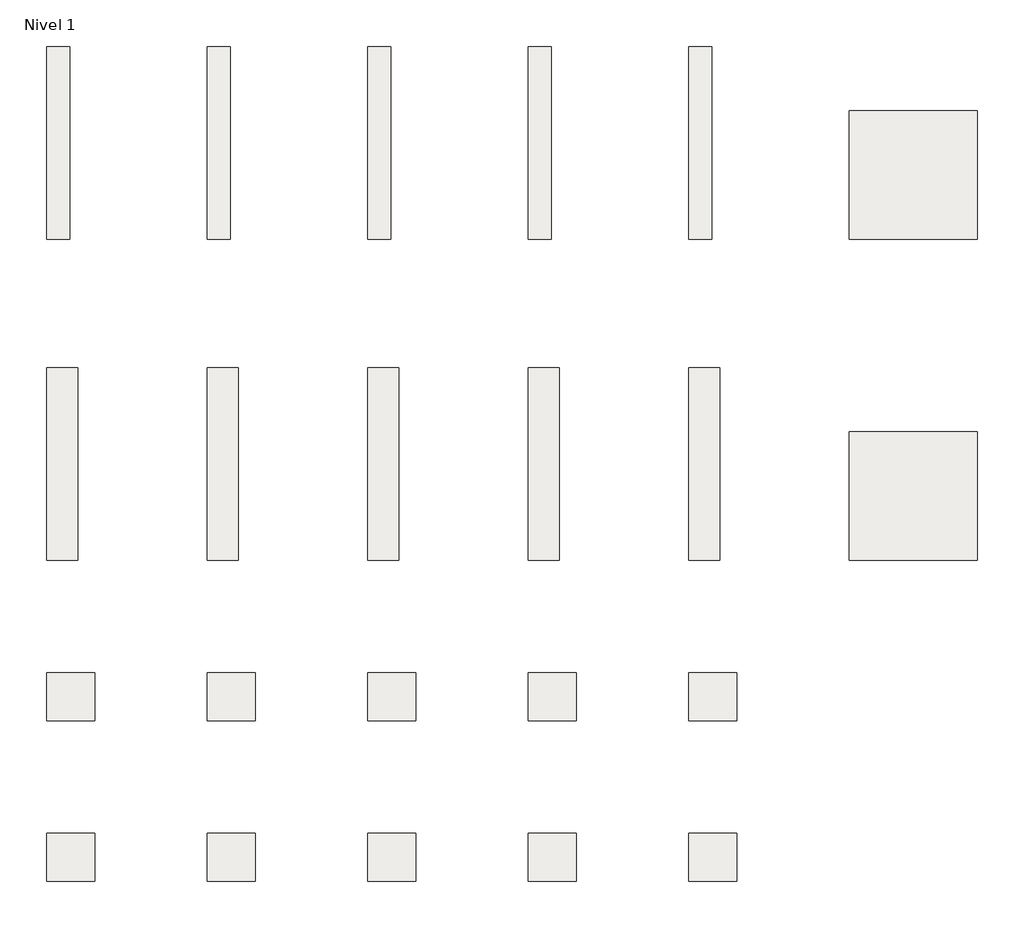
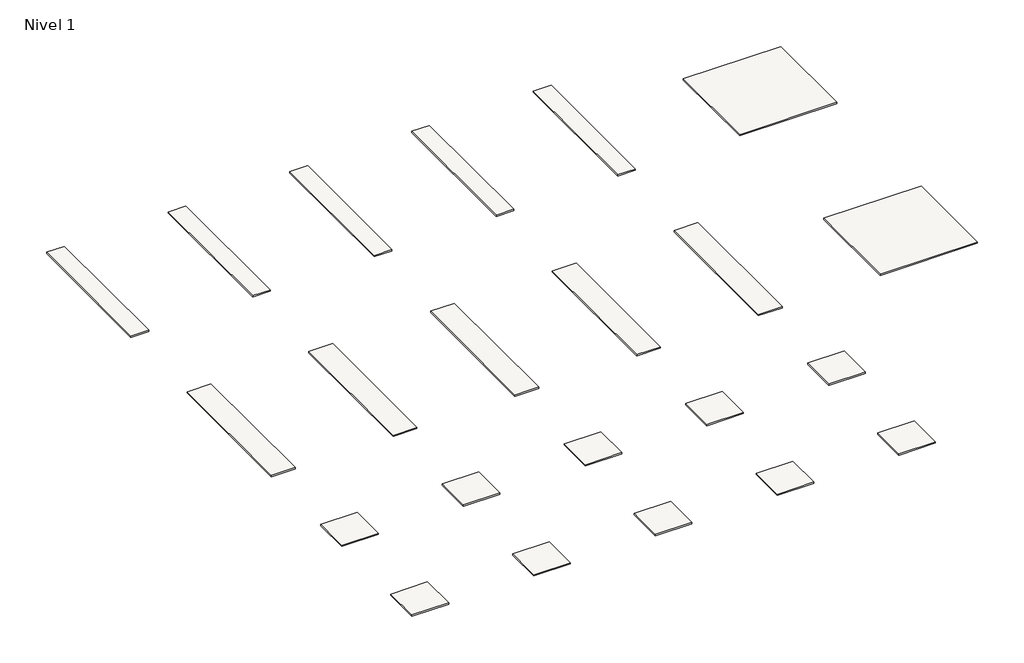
# One storey: 22 slabs.
"""IFC4 building model written with IfcOpenShell, lengths in millimetres."""

from ifc_helpers import new_model, si_unit, frame, origin, place, context, project, spatial, polyline, outline, extrude, element, save

model = new_model("IFC4")

# Units and contexts
model_context = context("Model", 3, world=origin())
ifc_project = project(units=[si_unit("LENGTHUNIT", "METRE", prefix="MILLI")], contexts=[model_context])

# Site, building, storey
site = spatial("IfcSite", under=ifc_project)
building = spatial("IfcBuilding", under=site)
storey = spatial("IfcBuildingStorey", under=building, Name="Nivel 1", Elevation=0.0)

# Slabs
placement = place(None, origin())
element("IfcSlab", 1, ObjectType="Sajonia Cerezo 14,5X120 Rec.", at=placement, inside=storey, context=model_context, shape_type="SweptSolid", body=[
    extrude(outline(polyline([(0.0, 1200.0), (145.0, 1200.0), (145.0, 0.0), (0.0, 0.0), (0.0, 1200.0)])), frame((0.0, 0.0, -11.3), z_axis=(0.0, 0.0, 1.0), x_axis=(1.0, 0.0, 0.0)), (0.0, 0.0, 1.0), 11.3),
])
element("IfcSlab", 2, ObjectType="Sajonia Arce 14,5X120 Rec.", at=placement, inside=storey, context=model_context, shape_type="SweptSolid", body=[
    extrude(outline(polyline([(1000.0, 1200.0), (1145.0, 1200.0), (1145.0, 0.0), (1000.0, 0.0), (1000.0, 1200.0)])), frame((0.0, 0.0, -11.3), z_axis=(0.0, 0.0, 1.0), x_axis=(1.0, 0.0, 0.0)), (0.0, 0.0, 1.0), 11.3),
])
element("IfcSlab", 3, ObjectType="Sajonia Fresno 14,5X120 Rec.", at=placement, inside=storey, context=model_context, shape_type="SweptSolid", body=[
    extrude(outline(polyline([(2000.0, 1200.0), (2145.0, 1200.0), (2145.0, 0.0), (2000.0, 0.0), (2000.0, 1200.0)])), frame((0.0, 0.0, -11.3), z_axis=(0.0, 0.0, 1.0), x_axis=(1.0, 0.0, 0.0)), (0.0, 0.0, 1.0), 11.3),
])
element("IfcSlab", 4, ObjectType="Sajonia Roble 14,5X120 Rec.", at=placement, inside=storey, context=model_context, shape_type="SweptSolid", body=[
    extrude(outline(polyline([(3000.0, 1200.0), (3145.0, 1200.0), (3145.0, 0.0), (3000.0, 0.0), (3000.0, 1200.0)])), frame((0.0, 0.0, -11.3), z_axis=(0.0, 0.0, 1.0), x_axis=(1.0, 0.0, 0.0)), (0.0, 0.0, 1.0), 11.3),
])
element("IfcSlab", 5, ObjectType="Sajonia Nogal 14,5X120 Rec.", at=placement, inside=storey, context=model_context, shape_type="SweptSolid", body=[
    extrude(outline(polyline([(4000.0, 1200.0), (4145.0, 1200.0), (4145.0, 0.0), (4000.0, 0.0), (4000.0, 1200.0)])), frame((0.0, 0.0, -11.3), z_axis=(0.0, 0.0, 1.0), x_axis=(1.0, 0.0, 0.0)), (0.0, 0.0, 1.0), 11.3),
])
element("IfcSlab", 6, ObjectType="Sajonia Cerezo 19,5X120 Rec.", at=placement, inside=storey, context=model_context, shape_type="SweptSolid", body=[
    extrude(outline(polyline([(0.0, -800.0), (195.0, -800.0), (195.0, -2000.0), (0.0, -2000.0), (0.0, -800.0)])), frame((0.0, 0.0, -11.3), z_axis=(0.0, 0.0, 1.0), x_axis=(1.0, 0.0, 0.0)), (0.0, 0.0, 1.0), 11.3),
])
element("IfcSlab", 7, ObjectType="Sajonia Arce 19,5X120 Rec.", at=placement, inside=storey, context=model_context, shape_type="SweptSolid", body=[
    extrude(outline(polyline([(1000.0, -800.0), (1195.0, -800.0), (1195.0, -2000.0), (1000.0, -2000.0), (1000.0, -800.0)])), frame((0.0, 0.0, -11.3), z_axis=(0.0, 0.0, 1.0), x_axis=(1.0, 0.0, 0.0)), (0.0, 0.0, 1.0), 11.3),
])
element("IfcSlab", 8, ObjectType="Sajonia Fresno 19,5X120 Rec.", at=placement, inside=storey, context=model_context, shape_type="SweptSolid", body=[
    extrude(outline(polyline([(2000.0, -800.0), (2195.0, -800.0), (2195.0, -2000.0), (2000.0, -2000.0), (2000.0, -800.0)])), frame((0.0, 0.0, -11.3), z_axis=(0.0, 0.0, 1.0), x_axis=(1.0, 0.0, 0.0)), (0.0, 0.0, 1.0), 11.3),
])
element("IfcSlab", 9, ObjectType="Sajonia Roble 19,5X120 Rec.", at=placement, inside=storey, context=model_context, shape_type="SweptSolid", body=[
    extrude(outline(polyline([(3000.0, -800.0), (3195.0, -800.0), (3195.0, -2000.0), (3000.0, -2000.0), (3000.0, -800.0)])), frame((0.0, 0.0, -11.3), z_axis=(0.0, 0.0, 1.0), x_axis=(1.0, 0.0, 0.0)), (0.0, 0.0, 1.0), 11.3),
])
element("IfcSlab", 10, ObjectType="Sajonia Nogal 19,5X120 Rec.", at=placement, inside=storey, context=model_context, shape_type="SweptSolid", body=[
    extrude(outline(polyline([(4000.0, -800.0), (4195.0, -800.0), (4195.0, -2000.0), (4000.0, -2000.0), (4000.0, -800.0)])), frame((0.0, 0.0, -11.3), z_axis=(0.0, 0.0, 1.0), x_axis=(1.0, 0.0, 0.0)), (0.0, 0.0, 1.0), 11.3),
])
element("IfcSlab", 11, ObjectType="Home Wengue 80X80 Rec.", at=placement, inside=storey, context=model_context, shape_type="SweptSolid", body=[
    extrude(outline(polyline([(5000.0, 800.0), (5800.0, 800.0), (5800.0, 0.0), (5000.0, 0.0), (5000.0, 800.0)])), frame((0.0, 0.0, -11.3), z_axis=(0.0, 0.0, 1.0), x_axis=(1.0, 0.0, 0.0)), (0.0, 0.0, 1.0), 11.3),
])
element("IfcSlab", 12, ObjectType="Home Nogal 80X80 Rec.", at=placement, inside=storey, context=model_context, shape_type="SweptSolid", body=[
    extrude(outline(polyline([(5000.0, -1200.0), (5800.0, -1200.0), (5800.0, -2000.0), (5000.0, -2000.0), (5000.0, -1200.0)])), frame((0.0, 0.0, -11.3), z_axis=(0.0, 0.0, 1.0), x_axis=(1.0, 0.0, 0.0)), (0.0, 0.0, 1.0), 11.3),
])
element("IfcSlab", 13, ObjectType="Parque Cerezo", at=placement, inside=storey, context=model_context, shape_type="SweptSolid", body=[
    extrude(outline(polyline([(0.0, -2700.0), (300.0, -2700.0), (300.0, -3000.0), (0.0, -3000.0), (0.0, -2700.0)])), frame((0.0, 0.0, -11.3), z_axis=(0.0, 0.0, 1.0), x_axis=(1.0, 0.0, 0.0)), (0.0, 0.0, 1.0), 11.3),
])
element("IfcSlab", 14, ObjectType="Parque Arce", at=placement, inside=storey, context=model_context, shape_type="SweptSolid", body=[
    extrude(outline(polyline([(1000.0, -2700.0), (1300.0, -2700.0), (1300.0, -3000.0), (1000.0, -3000.0), (1000.0, -2700.0)])), frame((0.0, 0.0, -11.3), z_axis=(0.0, 0.0, 1.0), x_axis=(1.0, 0.0, 0.0)), (0.0, 0.0, 1.0), 11.3),
])
element("IfcSlab", 15, ObjectType="Parque Fresno", at=placement, inside=storey, context=model_context, shape_type="SweptSolid", body=[
    extrude(outline(polyline([(2000.0, -2700.0), (2300.0, -2700.0), (2300.0, -3000.0), (2000.0, -3000.0), (2000.0, -2700.0)])), frame((0.0, 0.0, -11.3), z_axis=(0.0, 0.0, 1.0), x_axis=(1.0, 0.0, 0.0)), (0.0, 0.0, 1.0), 11.3),
])
element("IfcSlab", 16, ObjectType="Parque Roble", at=placement, inside=storey, context=model_context, shape_type="SweptSolid", body=[
    extrude(outline(polyline([(3000.0, -2700.0), (3300.0, -2700.0), (3300.0, -3000.0), (3000.0, -3000.0), (3000.0, -2700.0)])), frame((0.0, 0.0, -11.3), z_axis=(0.0, 0.0, 1.0), x_axis=(1.0, 0.0, 0.0)), (0.0, 0.0, 1.0), 11.3),
])
element("IfcSlab", 17, ObjectType="Parque Nogal", at=placement, inside=storey, context=model_context, shape_type="SweptSolid", body=[
    extrude(outline(polyline([(4000.0, -2700.0), (4300.0, -2700.0), (4300.0, -3000.0), (4000.0, -3000.0), (4000.0, -2700.0)])), frame((0.0, 0.0, -11.3), z_axis=(0.0, 0.0, 1.0), x_axis=(1.0, 0.0, 0.0)), (0.0, 0.0, 1.0), 11.3),
])
element("IfcSlab", 18, ObjectType="Tricot Cerezo", at=placement, inside=storey, context=model_context, shape_type="SweptSolid", body=[
    extrude(outline(polyline([(0.0, -3700.0), (300.0, -3700.0), (300.0, -4000.0), (0.0, -4000.0), (0.0, -3700.0)])), frame((0.0, 0.0, -11.3), z_axis=(0.0, 0.0, 1.0), x_axis=(1.0, 0.0, 0.0)), (0.0, 0.0, 1.0), 11.3),
])
element("IfcSlab", 19, ObjectType="Tricot Arce", at=placement, inside=storey, context=model_context, shape_type="SweptSolid", body=[
    extrude(outline(polyline([(1000.0, -3700.0), (1300.0, -3700.0), (1300.0, -4000.0), (1000.0, -4000.0), (1000.0, -3700.0)])), frame((0.0, 0.0, -11.3), z_axis=(0.0, 0.0, 1.0), x_axis=(1.0, 0.0, 0.0)), (0.0, 0.0, 1.0), 11.3),
])
element("IfcSlab", 20, ObjectType="Tricot Fresno", at=placement, inside=storey, context=model_context, shape_type="SweptSolid", body=[
    extrude(outline(polyline([(2000.0, -3700.0), (2300.0, -3700.0), (2300.0, -4000.0), (2000.0, -4000.0), (2000.0, -3700.0)])), frame((0.0, 0.0, -11.3), z_axis=(0.0, 0.0, 1.0), x_axis=(1.0, 0.0, 0.0)), (0.0, 0.0, 1.0), 11.3),
])
element("IfcSlab", 21, ObjectType="Tricot Roble", at=placement, inside=storey, context=model_context, shape_type="SweptSolid", body=[
    extrude(outline(polyline([(3000.0, -3700.0), (3300.0, -3700.0), (3300.0, -4000.0), (3000.0, -4000.0), (3000.0, -3700.0)])), frame((0.0, 0.0, -11.3), z_axis=(0.0, 0.0, 1.0), x_axis=(1.0, 0.0, 0.0)), (0.0, 0.0, 1.0), 11.3),
])
element("IfcSlab", 22, ObjectType="Tricot Nogal", at=placement, inside=storey, context=model_context, shape_type="SweptSolid", body=[
    extrude(outline(polyline([(4000.0, -3700.0), (4300.0, -3700.0), (4300.0, -4000.0), (4000.0, -4000.0), (4000.0, -3700.0)])), frame((0.0, 0.0, -11.3), z_axis=(0.0, 0.0, 1.0), x_axis=(1.0, 0.0, 0.0)), (0.0, 0.0, 1.0), 11.3),
])

save(model, "model.ifc")
